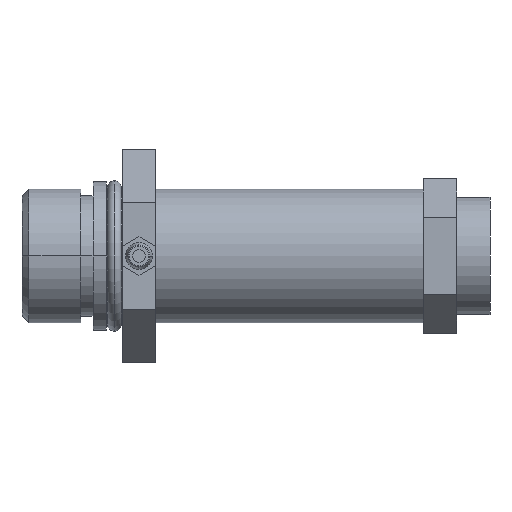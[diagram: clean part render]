
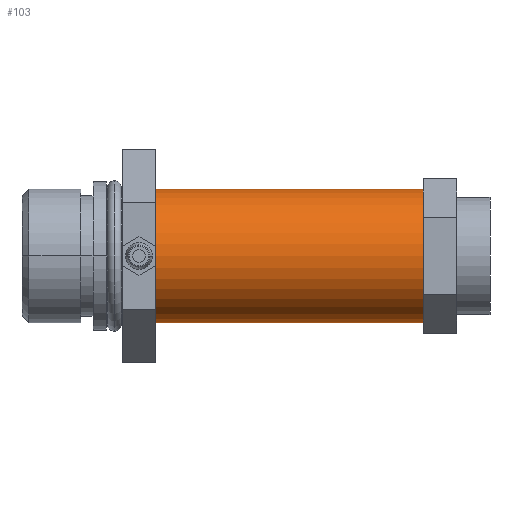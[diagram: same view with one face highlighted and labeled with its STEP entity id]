
A CAD part, front view. The second image highlights one B-rep face of the part: STEP entity #103.
In plain terms, the highlighted cylindrical face has radius 12.7 mm (diameter 25.4 mm), a partial arc.
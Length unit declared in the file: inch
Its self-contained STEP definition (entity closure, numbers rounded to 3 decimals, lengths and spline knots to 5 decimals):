
#33=CARTESIAN_POINT('',(-0.5,0.,0.));
#34=DIRECTION('',(1.,0.,0.));
#35=DIRECTION('',(0.,0.,1.));
#36=AXIS2_PLACEMENT_3D('',#33,#34,#35);
#38=DIRECTION('',(1.,0.,0.));
#39=VECTOR('',#38,2.);
#40=CARTESIAN_POINT('',(-2.5,0.,-0.5));
#41=LINE('',#40,#39);
#42=DIRECTION('',(1.,0.,0.));
#43=VECTOR('',#42,2.);
#44=CARTESIAN_POINT('',(-2.5,0.,0.5));
#45=LINE('',#44,#43);
#46=CARTESIAN_POINT('',(-2.5,0.,0.));
#47=DIRECTION('',(-1.,0.,0.));
#48=DIRECTION('',(0.,0.,-1.));
#49=AXIS2_PLACEMENT_3D('',#46,#47,#48);
#56=CARTESIAN_POINT('',(-2.5,0.,0.5));
#57=CARTESIAN_POINT('',(-0.5,0.,0.5));
#58=VERTEX_POINT('',#56);
#59=VERTEX_POINT('',#57);
#60=CARTESIAN_POINT('',(-2.5,0.,-0.5));
#61=CARTESIAN_POINT('',(-0.5,0.,-0.5));
#62=VERTEX_POINT('',#60);
#63=VERTEX_POINT('',#61);
#91=CARTESIAN_POINT('',(-2.5,0.,0.));
#92=DIRECTION('',(1.,0.,0.));
#93=DIRECTION('',(0.,0.,-1.));
#94=AXIS2_PLACEMENT_3D('',#91,#92,#93);
#95=CYLINDRICAL_SURFACE('',#94,0.5);
#96=ORIENTED_EDGE('',*,*,#71,.T.);
#97=ORIENTED_EDGE('',*,*,#86,.F.);
#99=ORIENTED_EDGE('',*,*,#98,.T.);
#100=ORIENTED_EDGE('',*,*,#82,.T.);
#101=EDGE_LOOP('',(#96,#97,#99,#100));
#102=FACE_OUTER_BOUND('',#101,.F.);
#37=CIRCLE('',#36,0.5);
#50=CIRCLE('',#49,0.5);
#71=EDGE_CURVE('',#59,#63,#37,.T.);
#82=EDGE_CURVE('',#58,#59,#45,.T.);
#86=EDGE_CURVE('',#62,#63,#41,.T.);
#98=EDGE_CURVE('',#62,#58,#50,.T.);
#103=ADVANCED_FACE('',(#102),#95,.T.);
